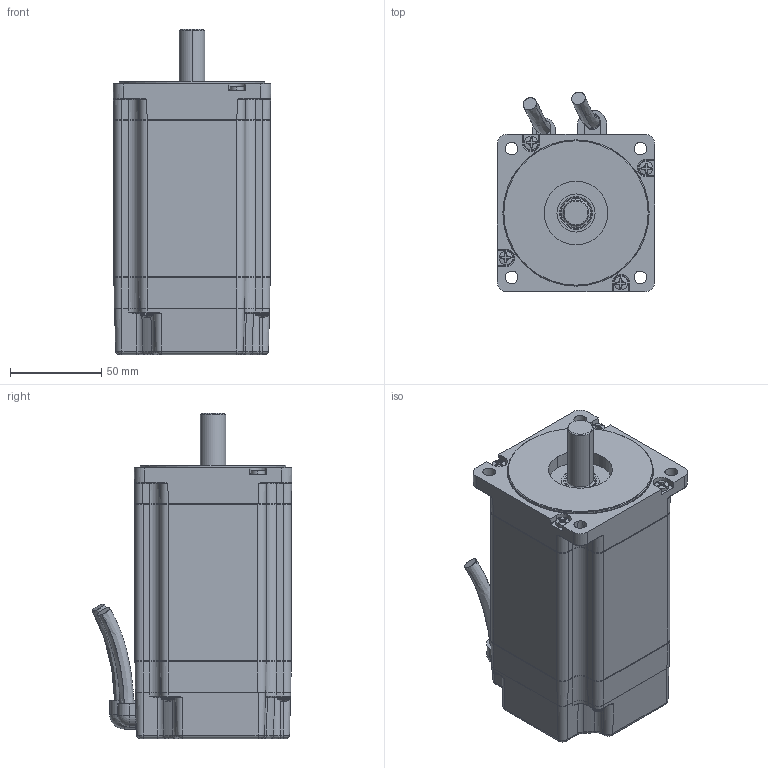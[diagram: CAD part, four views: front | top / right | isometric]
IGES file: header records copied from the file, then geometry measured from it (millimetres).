
Start section:  PTC IGES file: vlm32c.igs
Global section: file name: vlm32c.igs; native system: Pro/ENGINEER by Parametric Technology Corporation; preprocessor: 2006510; author: Ray.Dobbins; organization: Unknown; date: 20110726.162552; units: inch
Bounding box: 86.56 x 109.74 x 178.55 mm (x, y, z)
Surface area: 225424.8 mm2 (no closed solid volume)
Topology: 0 solids, 0 shells, 2110 faces, 11497 edges, 11487 vertices
Faces by surface type: revolution 1256, bspline 854
